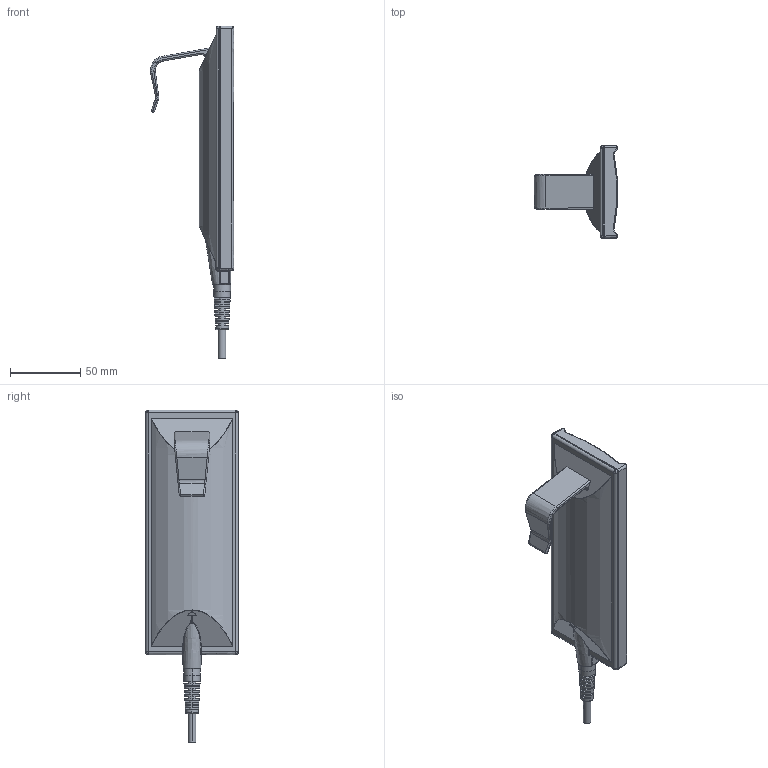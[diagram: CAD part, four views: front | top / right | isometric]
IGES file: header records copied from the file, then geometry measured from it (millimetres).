
Start section:  PTC IGES file: hb70.igs
Global section: file name: hb70.igs; native system: Pro/ENGINEER by Parametric Technology Corporation; preprocessor: 2005110; author: KH; organization: Unknown; date: 060202.114617; units: millimetre
Bounding box: 59.24 x 66 x 236.16 mm (x, y, z)
Volume: 192692 mm3; surface area: 35981.7 mm2
Topology: 1 solids, 1 shells, 302 faces, 719 edges, 440 vertices
Faces by surface type: bspline 172, revolution 127, extrusion 3
